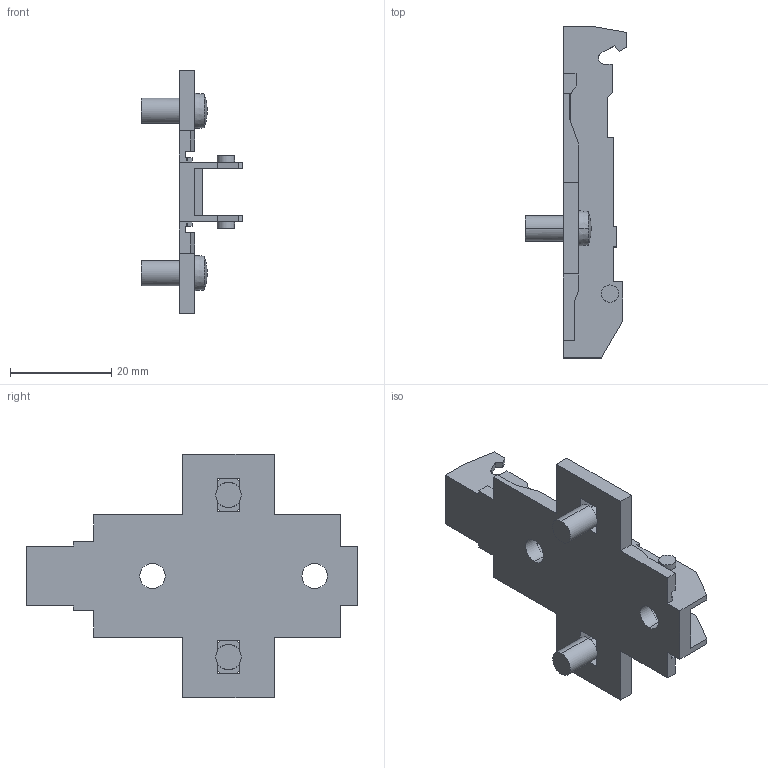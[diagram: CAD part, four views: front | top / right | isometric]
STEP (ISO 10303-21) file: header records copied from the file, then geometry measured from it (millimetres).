
FILE_DESCRIPTION (( 'STEP AP214' ), '1' );
FILE_NAME ('1D_Kreuzmontageplatte 37_32_5mm_Dübel_kurz_2.step', '2010-11-18T10:21:05', ( 'grass' ), ( '' ), 'SwSTEP 2.0', 'SolidWorks 2010', '' );
FILE_SCHEMA (( 'AUTOMOTIVE_DESIGN' ));
Length unit declared in the file: millimetre
Products named in the file (1): 1D_Kreuzmontageplatte 37_32_5mm_Dübel_kurz_2
Bounding box: 20 x 65.5 x 48 mm (x, y, z)
Volume: 6481 mm3; surface area: 6991.2 mm2
Topology: 1 solids, 1 shells, 130 faces, 400 edges, 258 vertices
Faces by surface type: plane 100, cylinder 22, sphere 4, cone 4
Entity records: 4506 total; most frequent: ORIENTED_EDGE 800, CARTESIAN_POINT 789, DIRECTION 742, EDGE_CURVE 400, LINE 320, VECTOR 320, VERTEX_POINT 258, AXIS2_PLACEMENT_3D 211
